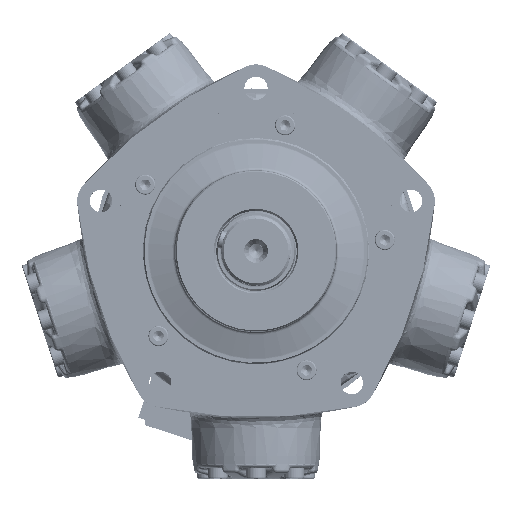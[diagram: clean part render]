
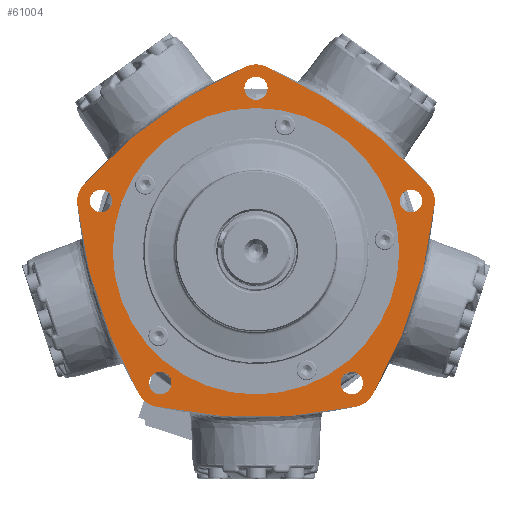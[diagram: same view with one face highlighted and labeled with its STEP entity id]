
A CAD part, top view. The second image highlights one B-rep face of the part: STEP entity #61004.
In plain terms, the highlighted planar face has unit normal (0, 0, 1).
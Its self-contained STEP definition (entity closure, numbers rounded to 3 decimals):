
#10244=PLANE($,#66015);
#12270=FACE_BOUND($,#19174,.T.);
#12271=FACE_BOUND($,#19175,.T.);
#12272=FACE_BOUND($,#19176,.T.);
#12273=FACE_BOUND($,#19177,.T.);
#12274=FACE_BOUND($,#19178,.T.);
#12275=FACE_BOUND($,#19179,.T.);
#12276=FACE_BOUND($,#19180,.T.);
#19174=EDGE_LOOP($,(#46946));
#19175=EDGE_LOOP($,(#46947));
#19176=EDGE_LOOP($,(#46948));
#19177=EDGE_LOOP($,(#46949));
#19178=EDGE_LOOP($,(#46950));
#19179=EDGE_LOOP($,(#46951));
#19180=EDGE_LOOP($,(#46952,#46953,#46954,#46955,#46956,#46957,#46958,#46959,
#46960,#46961));
#22777=CIRCLE($,#65852,19.05);
#22790=CIRCLE($,#65875,19.05);
#22815=CIRCLE($,#65938,381.);
#22834=CIRCLE($,#65964,381.);
#22858=CIRCLE($,#65996,381.);
#22863=CIRCLE($,#66002,19.05);
#22865=CIRCLE($,#66005,381.);
#22867=CIRCLE($,#66008,19.05);
#22869=CIRCLE($,#66011,381.);
#22871=CIRCLE($,#66014,19.05);
#22872=CIRCLE($,#66016,9.25);
#22873=CIRCLE($,#66017,9.);
#22874=CIRCLE($,#66018,9.);
#22875=CIRCLE($,#66019,9.);
#22876=CIRCLE($,#66020,9.);
#22877=CIRCLE($,#66021,114.319);
#26944=VERTEX_POINT($,#120026);
#26945=VERTEX_POINT($,#120027);
#26963=VERTEX_POINT($,#120159);
#26964=VERTEX_POINT($,#120160);
#27089=VERTEX_POINT($,#128491);
#27114=VERTEX_POINT($,#129640);
#27150=VERTEX_POINT($,#131962);
#27152=VERTEX_POINT($,#131968);
#27153=VERTEX_POINT($,#131973);
#27155=VERTEX_POINT($,#131979);
#27156=VERTEX_POINT($,#131986);
#27157=VERTEX_POINT($,#131988);
#27158=VERTEX_POINT($,#131990);
#27159=VERTEX_POINT($,#131992);
#27160=VERTEX_POINT($,#131994);
#27161=VERTEX_POINT($,#131996);
#33909=EDGE_CURVE($,#26944,#26945,#22777,.T.);
#33934=EDGE_CURVE($,#26963,#26964,#22790,.T.);
#34113=EDGE_CURVE($,#27089,#26963,#22815,.T.);
#34165=EDGE_CURVE($,#26945,#27114,#22834,.T.);
#34234=EDGE_CURVE($,#26964,#26944,#22858,.T.);
#34245=EDGE_CURVE($,#27150,#27089,#22863,.T.);
#34248=EDGE_CURVE($,#27152,#27150,#22865,.T.);
#34251=EDGE_CURVE($,#27153,#27152,#22867,.T.);
#34254=EDGE_CURVE($,#27155,#27153,#22869,.T.);
#34257=EDGE_CURVE($,#27114,#27155,#22871,.T.);
#34258=EDGE_CURVE($,#27156,#27156,#22872,.T.);
#34259=EDGE_CURVE($,#27157,#27157,#22873,.T.);
#34260=EDGE_CURVE($,#27158,#27158,#22874,.T.);
#34261=EDGE_CURVE($,#27159,#27159,#22875,.T.);
#34262=EDGE_CURVE($,#27160,#27160,#22876,.T.);
#34263=EDGE_CURVE($,#27161,#27161,#22877,.T.);
#46946=ORIENTED_EDGE($,*,*,#34258,.T.);
#46947=ORIENTED_EDGE($,*,*,#34259,.T.);
#46948=ORIENTED_EDGE($,*,*,#34260,.T.);
#46949=ORIENTED_EDGE($,*,*,#34261,.T.);
#46950=ORIENTED_EDGE($,*,*,#34262,.T.);
#46951=ORIENTED_EDGE($,*,*,#34263,.T.);
#46952=ORIENTED_EDGE($,*,*,#34113,.F.);
#46953=ORIENTED_EDGE($,*,*,#34245,.F.);
#46954=ORIENTED_EDGE($,*,*,#34248,.F.);
#46955=ORIENTED_EDGE($,*,*,#34251,.F.);
#46956=ORIENTED_EDGE($,*,*,#34254,.F.);
#46957=ORIENTED_EDGE($,*,*,#34257,.F.);
#46958=ORIENTED_EDGE($,*,*,#34165,.F.);
#46959=ORIENTED_EDGE($,*,*,#33909,.F.);
#46960=ORIENTED_EDGE($,*,*,#34234,.F.);
#46961=ORIENTED_EDGE($,*,*,#33934,.F.);
#61004=ADVANCED_FACE($,(#12270,#12271,#12272,#12273,#12274,#12275,#12276),
#10244,.F.);
#65852=AXIS2_PLACEMENT_3D($,#120028,#75736,#75737);
#65875=AXIS2_PLACEMENT_3D($,#120161,#75787,#75788);
#65938=AXIS2_PLACEMENT_3D($,#128492,#75938,#75939);
#65964=AXIS2_PLACEMENT_3D($,#129641,#75995,#75996);
#65996=AXIS2_PLACEMENT_3D($,#131536,#76063,#76064);
#66002=AXIS2_PLACEMENT_3D($,#131963,#76075,#76076);
#66005=AXIS2_PLACEMENT_3D($,#131969,#76082,#76083);
#66008=AXIS2_PLACEMENT_3D($,#131974,#76089,#76090);
#66011=AXIS2_PLACEMENT_3D($,#131980,#76096,#76097);
#66014=AXIS2_PLACEMENT_3D($,#131984,#76103,#76104);
#66015=AXIS2_PLACEMENT_3D($,#131985,#76105,#76106);
#66016=AXIS2_PLACEMENT_3D($,#131987,#76107,#76108);
#66017=AXIS2_PLACEMENT_3D($,#131989,#76109,#76110);
#66018=AXIS2_PLACEMENT_3D($,#131991,#76111,#76112);
#66019=AXIS2_PLACEMENT_3D($,#131993,#76113,#76114);
#66020=AXIS2_PLACEMENT_3D($,#131995,#76115,#76116);
#66021=AXIS2_PLACEMENT_3D($,#131997,#76117,#76118);
#75736=DIRECTION('center_axis',(0.,0.,-1.));
#75737=DIRECTION('ref_axis',(-0.404,-0.915,0.));
#75787=DIRECTION('center_axis',(0.,0.,-1.));
#75788=DIRECTION('ref_axis',(0.745,-0.667,0.));
#75938=DIRECTION('center_axis',(0.,0.,-1.));
#75939=DIRECTION('ref_axis',(0.995,0.101,0.));
#75995=DIRECTION('center_axis',(0.,0.,-1.));
#75996=DIRECTION('ref_axis',(-0.745,-0.667,0.));
#76063=DIRECTION('center_axis',(0.,0.,-1.));
#76064=DIRECTION('ref_axis',(0.404,-0.915,0.));
#76075=DIRECTION('center_axis',(0.,0.,-1.));
#76076=DIRECTION('ref_axis',(0.864,0.503,0.));
#76082=DIRECTION('center_axis',(0.,0.,-1.));
#76083=DIRECTION('ref_axis',(0.211,0.977,0.));
#76089=DIRECTION('center_axis',(0.,0.,-1.));
#76090=DIRECTION('ref_axis',(-0.211,0.977,0.));
#76096=DIRECTION('center_axis',(0.,0.,-1.));
#76097=DIRECTION('ref_axis',(-0.864,0.503,0.));
#76103=DIRECTION('center_axis',(0.,0.,-1.));
#76104=DIRECTION('ref_axis',(-0.995,0.101,0.));
#76105=DIRECTION('center_axis',(0.,0.,-1.));
#76106=DIRECTION('ref_axis',(-1.,0.,0.));
#76107=DIRECTION('center_axis',(0.,0.,-1.));
#76108=DIRECTION('ref_axis',(1.,0.,0.));
#76109=DIRECTION('center_axis',(0.,0.,-1.));
#76110=DIRECTION('ref_axis',(0.309,-0.951,0.));
#76111=DIRECTION('center_axis',(0.,0.,-1.));
#76112=DIRECTION('ref_axis',(-0.809,-0.588,0.));
#76113=DIRECTION('center_axis',(0.,0.,-1.));
#76114=DIRECTION('ref_axis',(-0.809,0.588,0.));
#76115=DIRECTION('center_axis',(0.,0.,-1.));
#76116=DIRECTION('ref_axis',(0.309,0.951,0.));
#76117=DIRECTION('center_axis',(0.,0.,-1.));
#76118=DIRECTION('ref_axis',(-1.,0.,0.));
#120026=CARTESIAN_POINT('',(-7.69,147.477,34.849));
#120027=CARTESIAN_POINT('',(7.69,147.477,34.849));
#120028=CARTESIAN_POINT('Origin',(0.,130.048,
34.849));
#120159=CARTESIAN_POINT('',(-142.635,38.259,34.849));
#120160=CARTESIAN_POINT('',(-137.883,52.886,34.849));
#120161=CARTESIAN_POINT('Origin',(-123.683,40.187,34.849));
#128491=CARTESIAN_POINT('',(-92.906,-114.791,34.849));
#128492=CARTESIAN_POINT('Origin',(236.409,76.814,34.849));
#129640=CARTESIAN_POINT('',(137.883,52.886,34.849));
#129641=CARTESIAN_POINT('Origin',(-146.109,-201.102,34.849));
#131536=CARTESIAN_POINT('Origin',(146.109,-201.102,34.849));
#131962=CARTESIAN_POINT('',(-80.463,-123.831,34.849));
#131963=CARTESIAN_POINT('Origin',(-76.44,-105.211,34.849));
#131968=CARTESIAN_POINT('',(80.463,-123.831,34.849));
#131969=CARTESIAN_POINT('Origin',(0.,248.575,
34.849));
#131973=CARTESIAN_POINT('',(92.906,-114.791,34.849));
#131974=CARTESIAN_POINT('Origin',(76.44,-105.211,34.849));
#131979=CARTESIAN_POINT('',(142.635,38.259,34.849));
#131980=CARTESIAN_POINT('Origin',(-236.409,76.814,34.849));
#131984=CARTESIAN_POINT('Origin',(123.683,40.187,34.849));
#131985=CARTESIAN_POINT('Origin',(0.,152.897,34.849));
#131986=CARTESIAN_POINT('',(-9.25,130.048,34.849));
#131987=CARTESIAN_POINT('Origin',(0.,130.048,
34.849));
#131988=CARTESIAN_POINT('',(120.902,48.747,34.849));
#131989=CARTESIAN_POINT('Origin',(123.683,40.187,34.849));
#131990=CARTESIAN_POINT('',(83.721,-99.921,34.849));
#131991=CARTESIAN_POINT('Origin',(76.44,-105.211,34.849));
#131992=CARTESIAN_POINT('',(-69.159,-110.501,34.849));
#131993=CARTESIAN_POINT('Origin',(-76.44,-105.211,34.849));
#131994=CARTESIAN_POINT('',(-126.464,31.628,34.849));
#131995=CARTESIAN_POINT('Origin',(-123.683,40.187,34.849));
#131996=CARTESIAN_POINT('',(114.319,0.,34.849));
#131997=CARTESIAN_POINT('Origin',(0.,0.,34.849));
